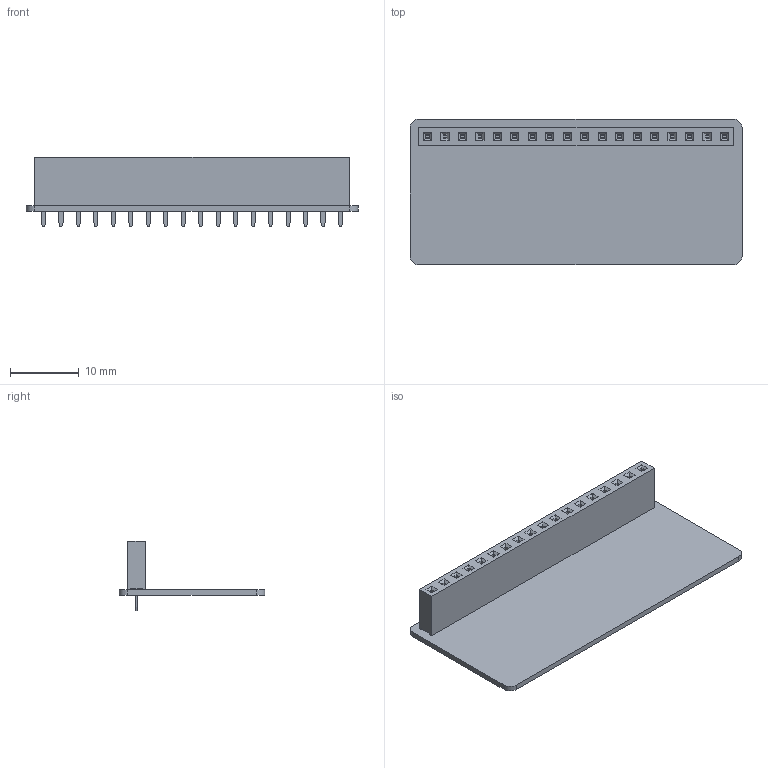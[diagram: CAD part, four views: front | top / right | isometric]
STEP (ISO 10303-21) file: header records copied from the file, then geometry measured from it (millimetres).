
FILE_DESCRIPTION(('KiCad electronic assembly'),'2;1');
FILE_NAME('NX-ButtonInterface.step','2024-08-11T09:25:05',('Pcbnew'),( 'Kicad'),'Open CASCADE STEP processor 7.6','KiCad to STEP converter' ,'Unknown');
FILE_SCHEMA(('AUTOMOTIVE_DESIGN { 1 0 10303 214 1 1 1 1 }'));
Length unit declared in the file: millimetre
Products named in the file (4): NX-ButtonInterface 1; PinSocket_1x18_P2.54mm_Vertical; PinSocket_1x18_P254mm_Vertical; NX-ButtonInterface_PCB
Assembly tree (3 placements, depth 3):
  NX-ButtonInterface 1
    PinSocket_1x18_P2.54mm_Vertical
      PinSocket_1x18_P254mm_Vertical
    NX-ButtonInterface_PCB
Bounding box: 48.26 x 21.21 x 10.1 mm (x, y, z)
Volume: 1570.9 mm3; surface area: 3467.2 mm2
Topology: 2 solids, 2 shells, 596 faces, 1542 edges, 1004 vertices
Faces by surface type: plane 574, cylinder 22
Full cylindrical faces by diameter (mm): 1 x18
Entity records: 21856 total; most frequent: CARTESIAN_POINT 3146, ORIENTED_EDGE 3084, DIRECTION 2786, EDGE_CURVE 1542, LINE 1498, VECTOR 1498, VERTEX_POINT 1004, FACE_BOUND 686
